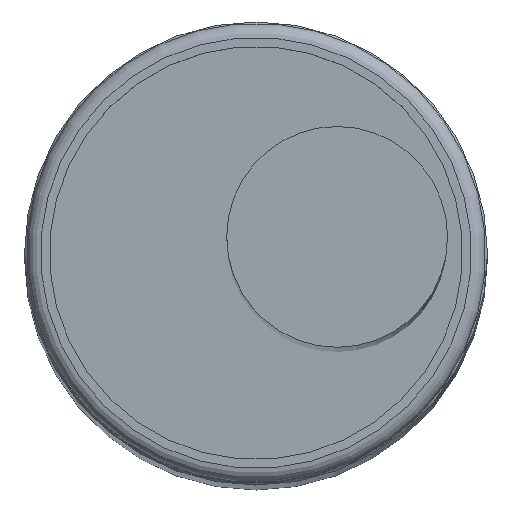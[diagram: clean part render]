
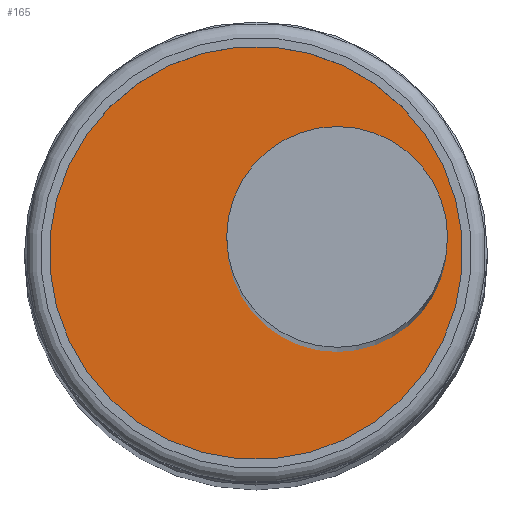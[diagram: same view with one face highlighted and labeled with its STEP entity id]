
A CAD part, top view. The second image highlights one B-rep face of the part: STEP entity #165.
In plain terms, the highlighted planar face has unit normal (0, 0, 1) as drawn and (-1, 0, 0) by its records, which use the part's own axes.
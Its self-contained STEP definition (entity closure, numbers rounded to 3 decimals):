
#165 = ADVANCED_FACE( '', ( #189 ), #190, .F. );
#189 = FACE_OUTER_BOUND( '', #236, .T. );
#190 = PLANE( '', #237 );
#236 = EDGE_LOOP( '', ( #288 ) );
#237 = AXIS2_PLACEMENT_3D( '', #289, #290, #291 );
#288 = ORIENTED_EDGE( '', *, *, #359, .F. );
#289 = CARTESIAN_POINT( '', ( 0.5, 0., 0. ) );
#290 = DIRECTION( '', ( 1., 0., 0. ) );
#291 = DIRECTION( '', ( 0., 0., -1. ) );
#359 = EDGE_CURVE( '', #375, #375, #376, .T. );
#375 = VERTEX_POINT( '', #403 );
#376 = CIRCLE( '', #404, 2.9 );
#403 = CARTESIAN_POINT( '', ( 0.5, 2.9, 0. ) );
#404 = AXIS2_PLACEMENT_3D( '', #433, #434, #435 );
#433 = CARTESIAN_POINT( '', ( 0.5, 0., 0. ) );
#434 = DIRECTION( '', ( 1., 0., 0. ) );
#435 = DIRECTION( '', ( 0., 1., 0. ) );
